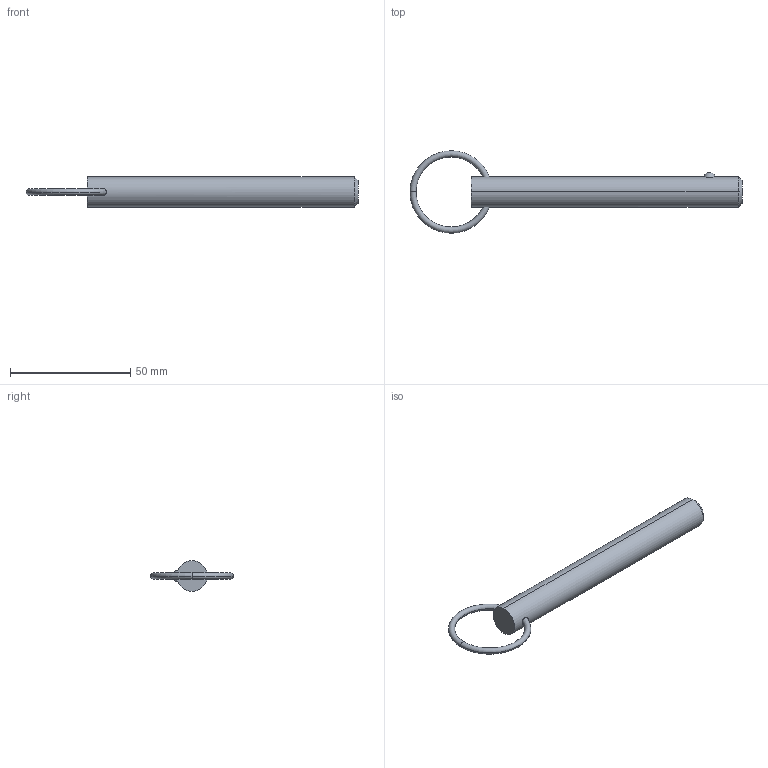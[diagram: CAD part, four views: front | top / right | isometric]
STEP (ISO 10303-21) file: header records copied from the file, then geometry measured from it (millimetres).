
FILE_DESCRIPTION (( 'STEP AP203' ), '1' );
FILE_NAME ('33012.W5035.step', '2024-11-01T14:13:23', ( '' ), ( '' ), 'SwSTEP 2.0', 'SolidWorks 2019', '' );
FILE_SCHEMA (( 'CONFIG_CONTROL_DESIGN' ));
Length unit declared in the file: millimetre
Products named in the file (3): 33012.W5035; Part1_33012.W5035; Part2_33012.W5035
Assembly tree (2 placements, depth 2):
  33012.W5035
    Part1_33012.W5035
    Part2_33012.W5035
Bounding box: 138.19 x 34.29 x 12.7 mm (x, y, z)
Volume: 14653.3 mm3; surface area: 5628.7 mm2
Topology: 2 solids, 2 shells, 16 faces, 31 edges, 18 vertices
Faces by surface type: torus 8, sphere 2, cone 2, cylinder 2, plane 2
Entity records: 885 total; most frequent: CARTESIAN_POINT 242, DIRECTION 88, ORIENTED_EDGE 62, AXIS2_PLACEMENT_3D 42, EDGE_CURVE 31, PERSON_AND_ORGANIZATION 26, CIRCLE 21, CALENDAR_DATE 19
